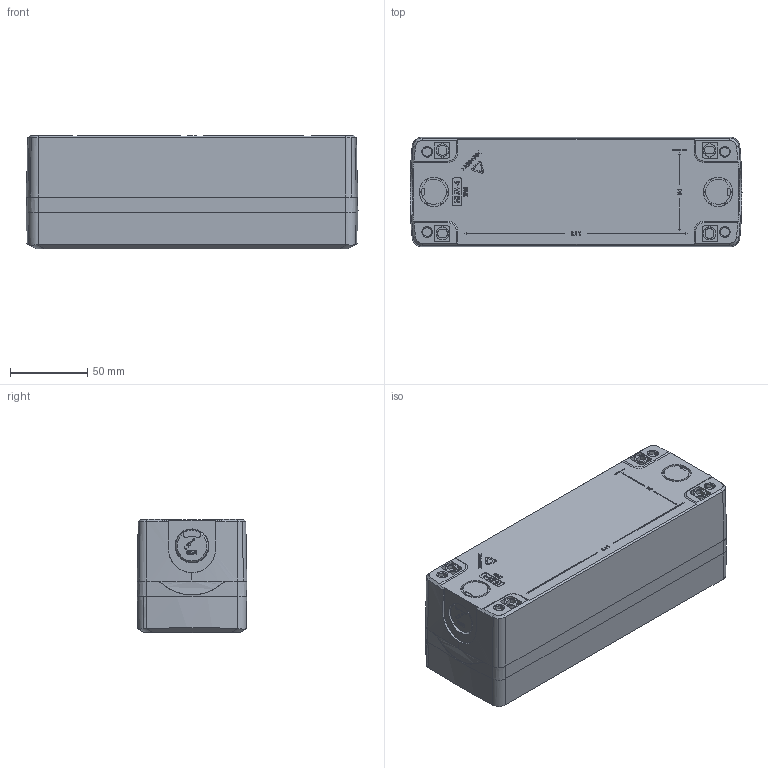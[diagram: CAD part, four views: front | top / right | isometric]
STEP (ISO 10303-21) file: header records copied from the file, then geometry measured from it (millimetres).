
FILE_DESCRIPTION (( 'STEP AP203' ), '1' );
FILE_NAME ('MC04.STEP', '2025-12-12T14:01:43', ( '' ), ( '' ), 'SwSTEP 2.0', 'SolidWorks 2022', '' );
FILE_SCHEMA (( 'CONFIG_CONTROL_DESIGN' ));
Length unit declared in the file: millimetre
Products named in the file (1): MC04
Bounding box: 215 x 71 x 73.5 mm (x, y, z)
Volume: 551230.6 mm3; surface area: 125030.6 mm2
Topology: 1 solids, 1 shells, 1240 faces, 3384 edges, 2238 vertices
Faces by surface type: plane 769, bspline 197, cylinder 185, cone 89
Entity records: 46277 total; most frequent: CARTESIAN_POINT 16140, ORIENTED_EDGE 6768, DIRECTION 5378, EDGE_CURVE 3384, LINE 2278, VECTOR 2278, VERTEX_POINT 2238, AXIS2_PLACEMENT_3D 1550
